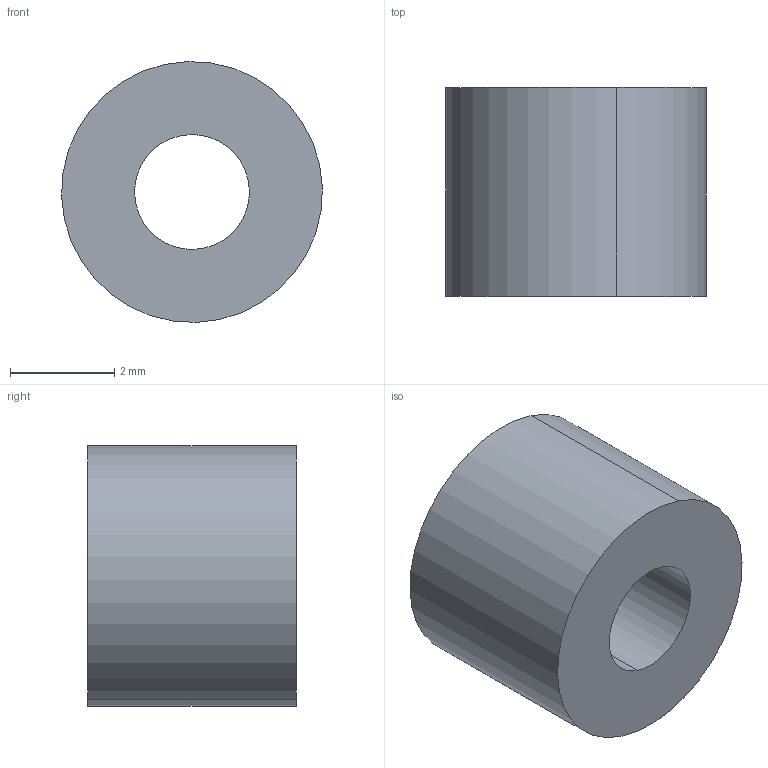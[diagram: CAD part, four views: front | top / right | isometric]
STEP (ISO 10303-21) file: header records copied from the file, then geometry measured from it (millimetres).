
FILE_DESCRIPTION(/* description */ ('VariCAD 2008 3.04 AP-203'),/* implementation_level */ '2;1');
FILE_NAME(/* name */ '0353-90-01',/* time_stamp */ '2009-04-28T20:22:28-06:00',/* author */ (''),/* organization */ (''),/* preprocessor_version */ 'ST-DEVELOPER v12',/* originating_system */ 'VariCAD 2008 3.04; kernel version (20080715)',/* authorisation */ '');
FILE_SCHEMA (('CONFIG_CONTROL_DESIGN'));
Length unit declared in the file: millimetre
Products named in the file (1): Part
Bounding box: 5 x 4 x 5 mm (x, y, z)
Volume: 63.3 mm3; surface area: 122.1 mm2
Topology: 1 solids, 1 shells, 6 faces, 12 edges, 8 vertices
Faces by surface type: cylinder 4, plane 2
Entity records: 214 total; most frequent: DIRECTION 36, CARTESIAN_POINT 28, ORIENTED_EDGE 24, AXIS2_PLACEMENT_3D 16, EDGE_CURVE 12, EDGE_LOOP 8, CIRCLE 8, VERTEX_POINT 8
